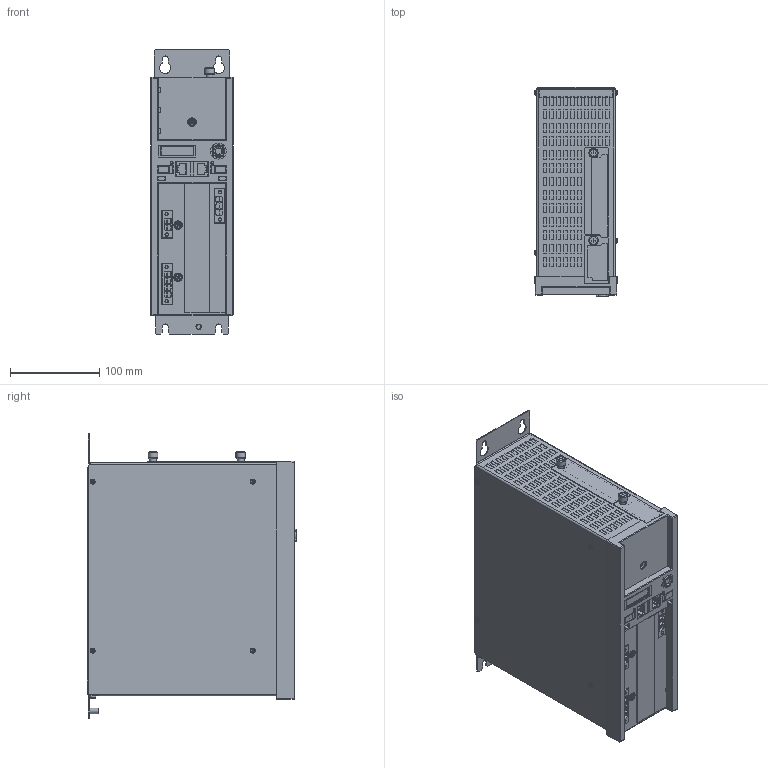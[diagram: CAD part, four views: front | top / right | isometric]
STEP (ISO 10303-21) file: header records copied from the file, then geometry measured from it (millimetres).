
FILE_DESCRIPTION(/* description */ (''),/* implementation_level */ '2;1');
FILE_NAME(/* name */ 'C:\Users\jankapischke.UNIT3\Desktop\AX5021-Bremsmodul.stp',/* time_stamp */ '2016-01-06T11:32:15+01:00',/* author */ ('jankapischke'),/* organization */ ('Design-AG'),/* preprocessor_version */ 'ST-DEVELOPER v16.1',/* originating_system */ 'Autodesk Inventor 2016',/* authorisation */ '');
FILE_SCHEMA (('AUTOMOTIVE_DESIGN { 1 0 10303 214 3 1 1 }'));
Products named in the file (1): Bauteil22
Bounding box: 92.96 x 234.1 x 317.7 mm (x, y, z)
Volume: 5162754.2 mm3; surface area: 281704.9 mm2
Topology: 1 solids, 19 shells, 2803 faces, 7320 edges, 4808 vertices
Faces by surface type: plane 2222, cylinder 316, cone 152, torus 86, sphere 27
Full cylindrical faces by diameter (mm): 1.752 x2, 2.729 x8, 3 x10, 3.2 x10, 3.4 x8, 3.621 x1, 3.7 x6, 4 x2, 4.22 x2, 4.25 x2, 4.5 x2, 5.56 x2, 5.6 x4, 6 x3, 7 x2, 7.5 x2, 8.63 x1, 10.59 x2, 14.3 x1, 17.886 x1
Entity records: 88027 total; most frequent: CARTESIAN_POINT 16741, ORIENTED_EDGE 14232, DIRECTION 13411, EDGE_CURVE 7114, LINE 5757, VECTOR 5757, VERTEX_POINT 4757, AXIS2_PLACEMENT_3D 3827
